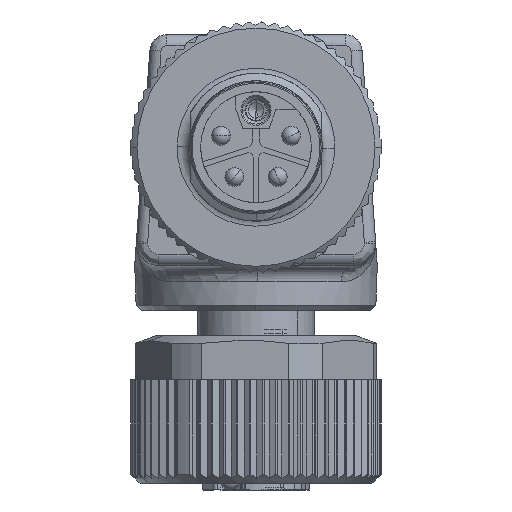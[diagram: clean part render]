
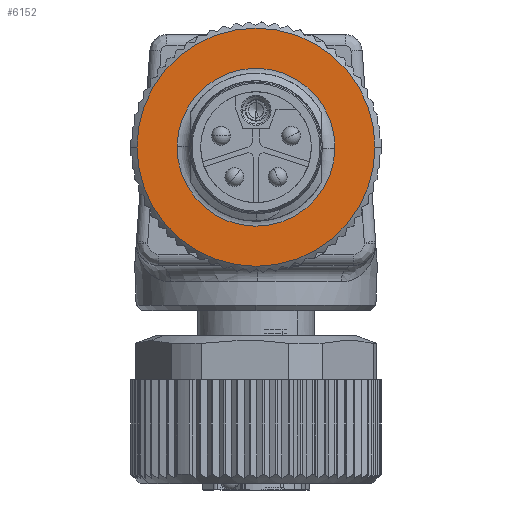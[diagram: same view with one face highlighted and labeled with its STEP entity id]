
A CAD part, left-side view. The second image highlights one B-rep face of the part: STEP entity #6152.
In plain terms, the highlighted planar face has unit normal (-1, 0, 0).
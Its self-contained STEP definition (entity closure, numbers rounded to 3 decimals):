
#1115 = CARTESIAN_POINT ( 'NONE',  ( -215.021, 6.299, 28.937 ) ) ;
#1901 = CARTESIAN_POINT ( 'NONE',  ( -215.021, -6.3, 28.773 ) ) ;
#3457 = DIRECTION ( 'NONE',  ( 0., -1., -0.014 ) ) ;
#4889 = VERTEX_POINT ( 'NONE', #20365 ) ;
#6152 = ADVANCED_FACE ( 'NONE', ( #44842, #27870 ), #28149, .T. ) ;
#9977 = ORIENTED_EDGE ( 'NONE', *, *, #22072, .T. ) ;
#10288 = DIRECTION ( 'NONE',  ( -1., 0., 0. ) ) ;
#11146 = DIRECTION ( 'NONE',  ( 0., 1., 0.014 ) ) ;
#11426 = DIRECTION ( 'NONE',  ( 1., 0., 0. ) ) ;
#11445 = VERTEX_POINT ( 'NONE', #1115 ) ;
#11946 = EDGE_CURVE ( 'NONE', #26873, #11445, #31421, .T. ) ;
#11955 = CARTESIAN_POINT ( 'NONE',  ( -215.021, 0., 28.85 ) ) ;
#13007 = CARTESIAN_POINT ( 'NONE',  ( -215.021, -6.3, 28.85 ) ) ;
#13340 = DIRECTION ( 'NONE',  ( 0., 1., 0. ) ) ;
#13441 = CARTESIAN_POINT ( 'NONE',  ( -215.021, 9.5, 28.85 ) ) ;
#13711 = CARTESIAN_POINT ( 'NONE',  ( -215.021, -6.3, 28.84 ) ) ;
#15485 = VERTEX_POINT ( 'NONE', #13007 ) ;
#18590 = CIRCLE ( 'NONE', #43118, 9.5 ) ;
#19373 = EDGE_LOOP ( 'NONE', ( #9977, #40071 ) ) ;
#20365 = CARTESIAN_POINT ( 'NONE',  ( -215.021, -9.5, 28.85 ) ) ;
#22072 = EDGE_CURVE ( 'NONE', #4889, #23594, #24687, .T. ) ;
#22482 = CARTESIAN_POINT ( 'NONE',  ( -215.021, -6.3, 28.85 ) ) ;
#23594 = VERTEX_POINT ( 'NONE', #13441 ) ;
#24421 = AXIS2_PLACEMENT_3D ( 'NONE', #49224, #32256, #3457 ) ;
#24687 = CIRCLE ( 'NONE', #29936, 9.5 ) ;
#25141 = B_SPLINE_CURVE_WITH_KNOTS ( 'NONE', 3,
 ( #35082, #1901, #43829, #51776, #13711, #22482 ),
 .UNSPECIFIED., .F., .F.,
 ( 4, 1, 1, 4 ),
 ( 0.001, 0.333, 0.667, 1. ),
 .UNSPECIFIED. ) ;
#26873 = VERTEX_POINT ( 'NONE', #29923 ) ;
#27215 = AXIS2_PLACEMENT_3D ( 'NONE', #11955, #36897, #40463 ) ;
#27870 = FACE_BOUND ( 'NONE', #32002, .T. ) ;
#28147 = CARTESIAN_POINT ( 'NONE',  ( -215.021, 0., 28.85 ) ) ;
#28149 = PLANE ( 'NONE',  #27215 ) ;
#29332 = DIRECTION ( 'NONE',  ( 0., -1., 0. ) ) ;
#29923 = CARTESIAN_POINT ( 'NONE',  ( -215.021, -6.299, 28.763 ) ) ;
#29936 = AXIS2_PLACEMENT_3D ( 'NONE', #41369, #37531, #29332 ) ;
#31421 = CIRCLE ( 'NONE', #24421, 6.3 ) ;
#32002 = EDGE_LOOP ( 'NONE', ( #46873, #54226, #40971 ) ) ;
#32256 = DIRECTION ( 'NONE',  ( 1., 0., 0. ) ) ;
#35082 = CARTESIAN_POINT ( 'NONE',  ( -215.021, -6.299, 28.763 ) ) ;
#36897 = DIRECTION ( 'NONE',  ( -1., 0., 0. ) ) ;
#37531 = DIRECTION ( 'NONE',  ( -1., 0., 0. ) ) ;
#39075 = CARTESIAN_POINT ( 'NONE',  ( -215.021, 0., 28.85 ) ) ;
#39507 = AXIS2_PLACEMENT_3D ( 'NONE', #28147, #11426, #11146 ) ;
#40071 = ORIENTED_EDGE ( 'NONE', *, *, #43821, .T. ) ;
#40463 = DIRECTION ( 'NONE',  ( 0., -1., 0. ) ) ;
#40971 = ORIENTED_EDGE ( 'NONE', *, *, #42096, .F. ) ;
#41369 = CARTESIAN_POINT ( 'NONE',  ( -215.021, 0., 28.85 ) ) ;
#42096 = EDGE_CURVE ( 'NONE', #26873, #15485, #25141, .T. ) ;
#42523 = EDGE_CURVE ( 'NONE', #11445, #15485, #50886, .T. ) ;
#43118 = AXIS2_PLACEMENT_3D ( 'NONE', #39075, #10288, #13340 ) ;
#43821 = EDGE_CURVE ( 'NONE', #23594, #4889, #18590, .T. ) ;
#43829 = CARTESIAN_POINT ( 'NONE',  ( -215.021, -6.3, 28.792 ) ) ;
#44842 = FACE_OUTER_BOUND ( 'NONE', #19373, .T. ) ;
#46873 = ORIENTED_EDGE ( 'NONE', *, *, #11946, .T. ) ;
#49224 = CARTESIAN_POINT ( 'NONE',  ( -215.021, 0., 28.85 ) ) ;
#50886 = CIRCLE ( 'NONE', #39507, 6.3 ) ;
#51776 = CARTESIAN_POINT ( 'NONE',  ( -215.021, -6.3, 28.821 ) ) ;
#54226 = ORIENTED_EDGE ( 'NONE', *, *, #42523, .T. ) ;
